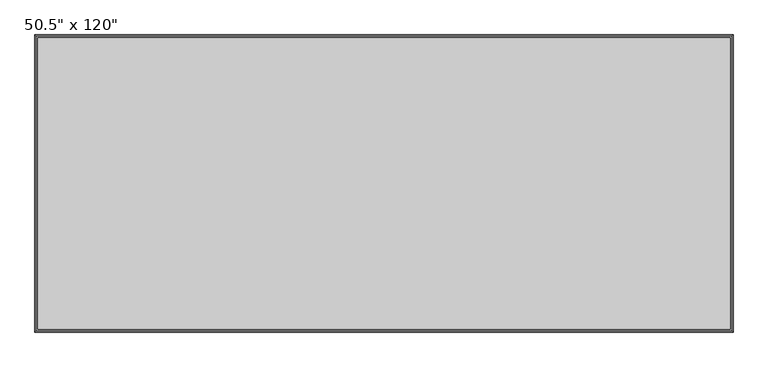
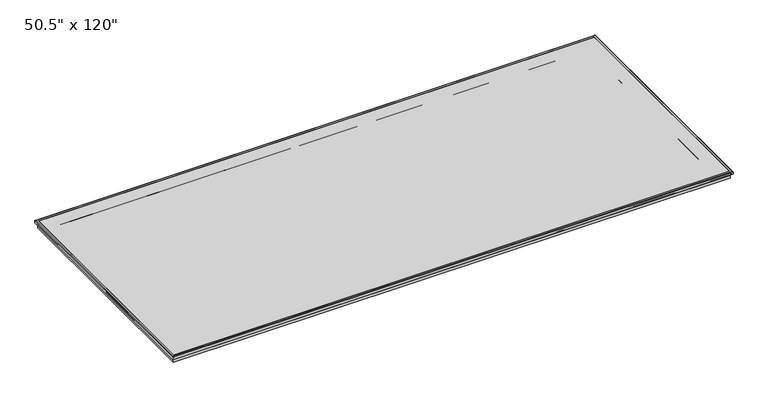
"""IFC4 building model written with IfcOpenShell, lengths in millimetres: proxy geometry."""

from ifc_helpers import new_model, si_unit, frame, origin, place, context, project, spatial, polyline, ellipse_curve, outline, extrude, source, transform, mapped, element, save
from ifc_brep_helpers import plane_surface, cylinder_surface, revolved_surface, advanced_brep


def proxy_4d024684(model_context):
    return source(origin(), model_context, "Body", "SolidModel", [
        advanced_brep(
        [(-1524.0, -641.35, 38.7617518), (-1524.0, -641.35, 41.275), (1524.0, -641.35, 41.275), (1524.0, -641.35, 38.7617518), (-1446.7, -564.05, 0.0), (-1446.7, -564.05, 38.7617518), (1446.7, -564.05, 38.7617518), (1446.7, -564.05, 0.0), (-1526.7, -644.05, 14.8528553), (-1526.7, -644.05, 0.0), (1526.7, -644.05, 0.0), (1526.7, -644.05, 14.8528553), (-1527.6789908, -645.0289908, 17.8246368), (1527.6789908, -645.0289908, 17.8246368), (-1532.6368179, -649.9868179, 24.532892), (1532.6368179, -649.9868179, 24.532892), (-1534.1080712, -651.4580712, 25.275), (1534.1080712, -651.4580712, 25.275), (-1536.7, -654.05, 38.275), (-1536.7, -654.05, 25.275), (1536.7, -654.05, 25.275), (1536.7, -654.05, 38.275), (-1533.7, -651.05, 41.275), (1533.7, -651.05, 41.275), (1524.0, 641.35, 41.275), (1524.0, 641.35, 38.7617518), (1446.7, 564.05, 38.7617518), (1446.7, 564.05, 0.0), (1526.7, 644.05, 0.0), (1526.7, 644.05, 14.8528553), (1527.6789908, 645.0289908, 17.8246368), (1532.6368179, 649.9868179, 24.532892), (1534.1080712, 651.4580712, 25.275), (1536.7, 654.05, 25.275), (1536.7, 654.05, 38.275), (1533.7, 651.05, 41.275), (-1524.0, 641.35, 41.275), (-1524.0, 641.35, 38.7617518), (-1446.7, 564.05, 38.7617518), (-1446.7, 564.05, 0.0), (-1526.7, 644.05, 0.0), (-1526.7, 644.05, 14.8528553), (-1527.6789908, 645.0289908, 17.8246368), (-1532.6368179, 649.9868179, 24.532892), (-1534.1080712, 651.4580712, 25.275), (-1536.7, 654.05, 25.275), (-1536.7, 654.05, 38.275), (-1533.7, 651.05, 41.275)],
        [
            (0, 1),
            (1, 2),
            (2, 3),
            (3, 0),
            (4, 5),
            (5, 6),
            (6, 7),
            (7, 4),
            (8, 9),
            (9, 10),
            (10, 11),
            (11, 8),
            (12, 8, ellipse_curve(frame((-1531.7, -649.05, 14.8528553), z_axis=(-0.7071067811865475, 0.7071067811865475, 0.0), x_axis=(0.7071067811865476, 0.7071067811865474, 0.0)), 7.0710678, 5.0)),
            (11, 13, ellipse_curve(frame((1531.7, -649.05, 14.8528553), z_axis=(0.7071067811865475, 0.7071067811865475, 0.0), x_axis=(0.7071067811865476, -0.7071067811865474, 0.0)), 7.0710678, 5.0)),
            (13, 12),
            (14, 12),
            (13, 15),
            (15, 14),
            (16, 14, ellipse_curve(frame((-1534.1080712, -651.4580712, 23.4455422), z_axis=(-0.7071067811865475, 0.7071067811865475, 0.0), x_axis=(0.7071067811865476, 0.7071067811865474, 0.0)), 2.587244, 1.8294578)),
            (15, 17, ellipse_curve(frame((1534.1080712, -651.4580712, 23.4455422), z_axis=(0.7071067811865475, 0.7071067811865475, 0.0), x_axis=(0.7071067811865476, -0.7071067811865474, 0.0)), 2.587244, 1.8294578)),
            (17, 16),
            (18, 19),
            (19, 20),
            (20, 21),
            (21, 18),
            (22, 18, ellipse_curve(frame((-1533.7, -651.05, 38.275), z_axis=(0.7071067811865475, -0.7071067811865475, 0.0), x_axis=(-0.7071067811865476, -0.7071067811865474, 0.0)), 4.2426407, 3.0)),
            (21, 23, ellipse_curve(frame((1533.7, -651.05, 38.275), z_axis=(-0.7071067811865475, -0.7071067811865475, 0.0), x_axis=(-0.7071067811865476, 0.7071067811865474, 0.0)), 4.2426407, 3.0)),
            (23, 22),
            (2, 24),
            (24, 25),
            (25, 3),
            (6, 26),
            (26, 27),
            (27, 7),
            (10, 28),
            (28, 29),
            (29, 11),
            (29, 30, ellipse_curve(frame((1531.7, 649.05, 14.8528553), z_axis=(-0.7071067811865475, 0.7071067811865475, 0.0), x_axis=(0.7071067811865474, 0.7071067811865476, 0.0)), 7.0710678, 5.0)),
            (30, 13),
            (30, 31),
            (31, 15),
            (31, 32, ellipse_curve(frame((1534.1080712, 651.4580712, 23.4455422), z_axis=(-0.7071067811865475, 0.7071067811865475, 0.0), x_axis=(0.7071067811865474, 0.7071067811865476, 0.0)), 2.587244, 1.8294578)),
            (32, 17),
            (20, 33),
            (33, 34),
            (34, 21),
            (34, 35, ellipse_curve(frame((1533.7, 651.05, 38.275), z_axis=(0.7071067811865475, -0.7071067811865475, 0.0), x_axis=(-0.7071067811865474, -0.7071067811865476, 0.0)), 4.2426407, 3.0)),
            (35, 23),
            (24, 36),
            (36, 37),
            (37, 25),
            (26, 38),
            (38, 39),
            (39, 27),
            (28, 40),
            (40, 41),
            (41, 29),
            (41, 42, ellipse_curve(frame((-1531.7, 649.05, 14.8528553), z_axis=(-0.7071067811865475, -0.7071067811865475, 0.0), x_axis=(-0.7071067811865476, 0.7071067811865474, 0.0)), 7.0710678, 5.0)),
            (42, 30),
            (42, 43),
            (43, 31),
            (43, 44, ellipse_curve(frame((-1534.1080712, 651.4580712, 23.4455422), z_axis=(-0.7071067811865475, -0.7071067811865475, 0.0), x_axis=(-0.7071067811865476, 0.7071067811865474, 0.0)), 2.587244, 1.8294578)),
            (44, 32),
            (33, 45),
            (45, 46),
            (46, 34),
            (46, 47, ellipse_curve(frame((-1533.7, 651.05, 38.275), z_axis=(0.7071067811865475, 0.7071067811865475, 0.0), x_axis=(0.7071067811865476, -0.7071067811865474, 0.0)), 4.2426407, 3.0)),
            (47, 35),
            (36, 1),
            (0, 37),
            (5, 38),
            (4, 39),
            (9, 40),
            (8, 41),
            (12, 42),
            (14, 43),
            (16, 44),
            (19, 45),
            (18, 46),
            (22, 47),
        ],
        [
            plane_surface(frame((-1524.0, -641.35, 41.275), z_axis=(0.0, 1.0, 0.0), x_axis=(1.0, 0.0, 0.0))),
            plane_surface(frame((-1446.7, -564.05, 38.7617518), z_axis=(0.0, 1.0, 0.0), x_axis=(1.0, 0.0, 0.0))),
            plane_surface(frame((-1526.7, -644.05, 0.0), z_axis=(0.0, -1.0, 0.0), x_axis=(1.0, 0.0, 0.0))),
            revolved_surface(polyline([(1536.69999999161, -644.05, 14.8528553), (-1536.69999999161, -644.05, 14.8528553)]), (-1536.7, -649.05, 14.8528553), (1.0, 0.0, 0.0)),
            plane_surface(frame((-1527.6789908, -645.0289908, 17.8246368), z_axis=(0.0, -0.8042018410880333, -0.5943562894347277), x_axis=(1.0, 0.0, 0.0))),
            revolved_surface(polyline([(1535.9375289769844, -649.6286134, 23.4455422), (-1535.9375289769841, -649.6286134, 23.4455422)]), (-1536.7, -651.4580712, 23.4455422), (1.0, 0.0, 0.0)),
            plane_surface(frame((-1536.7, -654.05, 25.275), z_axis=(0.0, -1.0, 0.0), x_axis=(1.0, 0.0, 0.0))),
            cylinder_surface(frame((-1536.7, -651.05, 38.275), z_axis=(-1.0, 0.0, 0.0), x_axis=(0.0, 1.0, 0.0)), 3.0),
            plane_surface(frame((1524.0, -641.35, 41.275), z_axis=(-1.0, 0.0, 0.0), x_axis=(0.0, 1.0, 0.0))),
            plane_surface(frame((1446.7, -564.05, 38.7617518), z_axis=(-1.0, 0.0, 0.0), x_axis=(0.0, 1.0, 0.0))),
            plane_surface(frame((1526.7, -644.05, 0.0), z_axis=(1.0, 0.0, 0.0), x_axis=(0.0, 1.0, 0.0))),
            revolved_surface(polyline([(1526.7, 654.0499999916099, 14.8528553), (1526.7, -654.0499999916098, 14.8528553)]), (1531.7, -654.05, 14.8528553), (0.0, 1.0, 0.0)),
            plane_surface(frame((1527.6789908, -645.0289908, 17.8246368), z_axis=(0.8042018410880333, 0.0, -0.5943562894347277), x_axis=(0.0, 1.0, 0.0))),
            revolved_surface(polyline([(1532.2786134, 653.287528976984, 23.4455422), (1532.2786134, -653.2875289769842, 23.4455422)]), (1534.1080712, -654.05, 23.4455422), (0.0, 1.0, 0.0)),
            plane_surface(frame((1536.7, -654.05, 25.275), z_axis=(1.0, 0.0, 0.0), x_axis=(0.0, 1.0, 0.0))),
            cylinder_surface(frame((1533.7, -654.05, 38.275), z_axis=(0.0, -1.0, 0.0), x_axis=(-1.0, 0.0, 0.0)), 3.0),
            plane_surface(frame((1524.0, 641.35, 41.275), z_axis=(0.0, -1.0, 0.0), x_axis=(-1.0, 0.0, 0.0))),
            plane_surface(frame((1446.7, 564.05, 38.7617518), z_axis=(0.0, -1.0, 0.0), x_axis=(-1.0, 0.0, 0.0))),
            plane_surface(frame((1526.7, 644.05, 0.0), z_axis=(0.0, 1.0, 0.0), x_axis=(-1.0, 0.0, 0.0))),
            revolved_surface(polyline([(-1536.69999999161, 644.05, 14.8528553), (1536.69999999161, 644.05, 14.8528553)]), (1536.7, 649.05, 14.8528553), (-1.0, 0.0, 0.0)),
            plane_surface(frame((1527.6789908, 645.0289908, 17.8246368), z_axis=(0.0, 0.8042018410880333, -0.5943562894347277), x_axis=(-1.0, 0.0, 0.0))),
            revolved_surface(polyline([(-1535.9375289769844, 649.6286134, 23.4455422), (1535.9375289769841, 649.6286134, 23.4455422)]), (1536.7, 651.4580712, 23.4455422), (-1.0, 0.0, 0.0)),
            plane_surface(frame((1536.7, 654.05, 25.275), z_axis=(0.0, 1.0, 0.0), x_axis=(-1.0, 0.0, 0.0))),
            cylinder_surface(frame((1536.7, 651.05, 38.275), z_axis=(1.0, 0.0, 0.0), x_axis=(0.0, -1.0, 0.0)), 3.0),
            plane_surface(frame((-1524.0, 641.35, 41.275), z_axis=(1.0, 0.0, 0.0), x_axis=(0.0, -1.0, 0.0))),
            plane_surface(frame((-1524.0, 641.35, 38.7617518), z_axis=(0.0, 0.0, 1.0), x_axis=(0.0, -1.0, 0.0))),
            plane_surface(frame((-1446.7, 564.05, 38.7617518), z_axis=(1.0, 0.0, 0.0), x_axis=(0.0, -1.0, 0.0))),
            plane_surface(frame((-1446.7, 564.05, 0.0), z_axis=(0.0, 0.0, -1.0), x_axis=(0.0, -1.0, 0.0))),
            plane_surface(frame((-1526.7, 644.05, 0.0), z_axis=(-1.0, 0.0, 0.0), x_axis=(0.0, -1.0, 0.0))),
            revolved_surface(polyline([(-1526.7, -654.0499999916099, 14.8528553), (-1526.7, 654.0499999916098, 14.8528553)]), (-1531.7, 654.05, 14.8528553), (0.0, -1.0, 0.0)),
            plane_surface(frame((-1527.6789908, 645.0289908, 17.8246368), z_axis=(-0.8042018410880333, 0.0, -0.5943562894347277), x_axis=(0.0, -1.0, 0.0))),
            revolved_surface(polyline([(-1532.2786134, -653.287528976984, 23.4455422), (-1532.2786134, 653.2875289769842, 23.4455422)]), (-1534.1080712, 654.05, 23.4455422), (0.0, -1.0, 0.0)),
            plane_surface(frame((-1534.1080712, 651.4580712, 25.275), z_axis=(0.0, 0.0, -1.0), x_axis=(0.0, -1.0, 0.0))),
            plane_surface(frame((-1536.7, 654.05, 25.275), z_axis=(-1.0, 0.0, 0.0), x_axis=(0.0, -1.0, 0.0))),
            cylinder_surface(frame((-1533.7, 654.05, 38.275), z_axis=(0.0, 1.0, 0.0), x_axis=(1.0, 0.0, 0.0)), 3.0),
            plane_surface(frame((-1533.7, 651.05, 41.275), z_axis=(0.0, 0.0, 1.0), x_axis=(0.0, -1.0, 0.0))),
        ],
        [
            (0, [[1, 2, 3, 4]]),
            (1, [[5, 6, 7, 8]]),
            (2, [[9, 10, 11, 12]]),
            (3, [[13, -12, 14, 15]]),
            (4, [[16, -15, 17, 18]]),
            (5, [[19, -18, 20, 21]]),
            (6, [[22, 23, 24, 25]]),
            (7, [[26, -25, 27, 28]]),
            (8, [[-3, 29, 30, 31]]),
            (9, [[-7, 32, 33, 34]]),
            (10, [[-11, 35, 36, 37]]),
            (11, [[-14, -37, 38, 39]]),
            (12, [[-17, -39, 40, 41]]),
            (13, [[-20, -41, 42, 43]]),
            (14, [[-24, 44, 45, 46]]),
            (15, [[-27, -46, 47, 48]]),
            (16, [[-30, 49, 50, 51]]),
            (17, [[-33, 52, 53, 54]]),
            (18, [[-36, 55, 56, 57]]),
            (19, [[-38, -57, 58, 59]]),
            (20, [[-40, -59, 60, 61]]),
            (21, [[-42, -61, 62, 63]]),
            (22, [[-45, 64, 65, 66]]),
            (23, [[-47, -66, 67, 68]]),
            (24, [[-50, 69, -1, 70]]),
            (25, [[-31, -51, -70, -4], [71, -52, -32, -6]]),
            (26, [[-53, -71, -5, 72]]),
            (27, [[73, -55, -35, -10], [-34, -54, -72, -8]]),
            (28, [[-56, -73, -9, 74]]),
            (29, [[-58, -74, -13, 75]]),
            (30, [[-60, -75, -16, 76]]),
            (31, [[-62, -76, -19, 77]]),
            (32, [[78, -64, -44, -23], [-43, -63, -77, -21]]),
            (33, [[-65, -78, -22, 79]]),
            (34, [[-67, -79, -26, 80]]),
            (35, [[-48, -68, -80, -28], [-69, -49, -29, -2]]),
        ],
    ),
        extrude(outline(polyline([(1524.0, 641.35), (1524.0, -641.35), (-1524.0, -641.35), (-1524.0, 641.35), (1524.0, 641.35)])), frame((0.0, 0.0, 38.7617518), z_axis=(0.0, 0.0, 1.0), x_axis=(1.0, 0.0, 0.0)), (0.0, 0.0, 1.0), 0.5132482),
    ])


if __name__ == "__main__":
    model = new_model("IFC4")
    model_context = context("Model", 3, world=origin())
    ifc_project = project(units=[si_unit("LENGTHUNIT", "METRE", prefix="MILLI")], contexts=[model_context])
    site = spatial("IfcSite", under=ifc_project)
    building = spatial("IfcBuilding", under=site)
    placement = place(None, origin())
    proxy_shape = proxy_4d024684(model_context)
    element("IfcBuildingElementProxy", 1, Name="Electronics-Visual-Projectors_Da-Lite_Specialty-Equipment_Parallax-Thin : 50.5\" x 120\"", ObjectType="Electronics-Visual-Projectors_Da-Lite_Specialty-Equipment_Parallax-Thin : 50.5\" x 120\"", at=placement, inside=building, context=model_context, shape_type="MappedRepresentation", body=[
        mapped(proxy_shape, transform((0.0, 0.0, 0.0), x_axis=(1.0, 0.0, 0.0), y_axis=(0.0, 1.0, 0.0), z_axis=(0.0, 0.0, 1.0))),
    ])
    save(model, "model.ifc")
